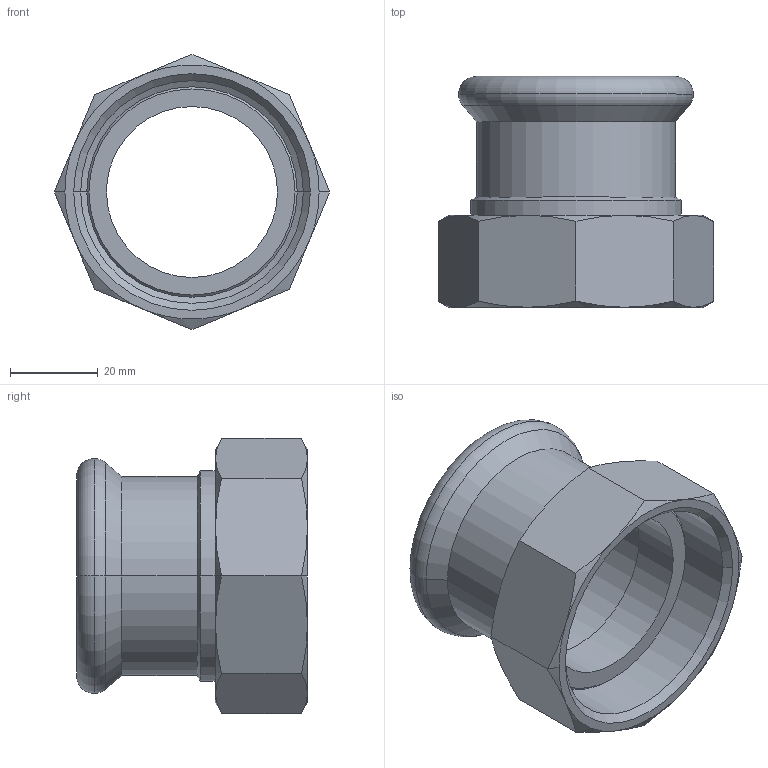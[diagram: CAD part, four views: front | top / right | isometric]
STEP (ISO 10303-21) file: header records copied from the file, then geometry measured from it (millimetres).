
FILE_DESCRIPTION(('CoCreate Modeling STEP Export'),'2;1');
FILE_NAME('C1446 42xG1 3-4.stp','2014-11-12T16:55:47',(''),(''),'CoCreate Modeling STEP processor for AP214 (Solid Model)','CoCreate Modeling 17.00A 17-Jun-2010 (C) Parametric Technology GmbH','');
FILE_SCHEMA(('AUTOMOTIVE_DESIGN { 1 0 10303 214 1 1 1 1 }'));
Length unit declared in the file: millimetre
Products named in the file (2): C1446_42xG1.3-4
Assembly tree (1 placements, depth 2):
  C1446_42xG1.3-4
    C1446_42xG1.3-4
Bounding box: 62.78 x 52.69 x 62.78 mm (x, y, z)
Volume: 33657.8 mm3; surface area: 21557.8 mm2
Topology: 1 solids, 1 shells, 71 faces, 150 edges, 84 vertices
Faces by surface type: cone 34, cylinder 16, plane 13, torus 8
Entity records: 2822 total; most frequent: CARTESIAN_POINT 1568, ORIENTED_EDGE 300, DIRECTION 174, EDGE_CURVE 150, VERTEX_POINT 84, EDGE_LOOP 76, FACE_OUTER_BOUND 71, ADVANCED_FACE 71
